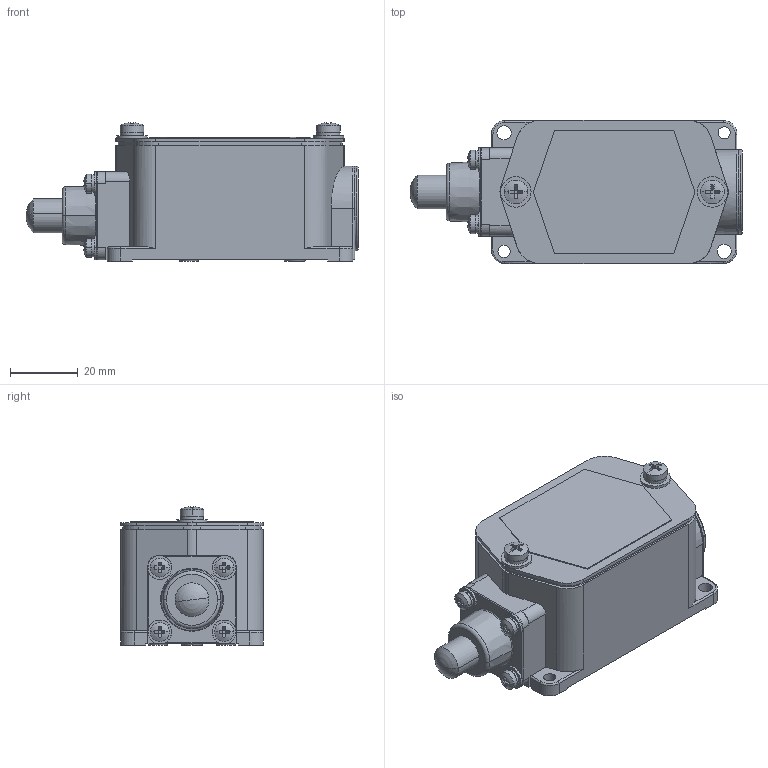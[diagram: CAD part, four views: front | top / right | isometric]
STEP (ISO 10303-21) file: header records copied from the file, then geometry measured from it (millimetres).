
FILE_DESCRIPTION((''),'2;1');
FILE_NAME('311','2022-03-01T',('qinxiong.ji'),(''),'PRO/ENGINEER BY PARAMETRIC TECHNOLOGY CORPORATION, 2015440','PRO/ENGINEER BY PARAMETRIC TECHNOLOGY CORPORATION, 2015440','');
FILE_SCHEMA(('CONFIG_CONTROL_DESIGN'));
Length unit declared in the file: millimetre
Products named in the file (1): 311
Bounding box: 98 x 42.2 x 40.82 mm (x, y, z)
Volume: 102421.5 mm3; surface area: 19395.2 mm2
Topology: 1 solids, 2 shells, 332 faces, 809 edges, 505 vertices
Faces by surface type: plane 198, cylinder 95, torus 23, sphere 14, cone 2
Entity records: 9852 total; most frequent: DIRECTION 1787, CARTESIAN_POINT 1770, ORIENTED_EDGE 1614, EDGE_CURVE 807, AXIS2_PLACEMENT_3D 669, VERTEX_POINT 505, VECTOR 449, LINE 449
